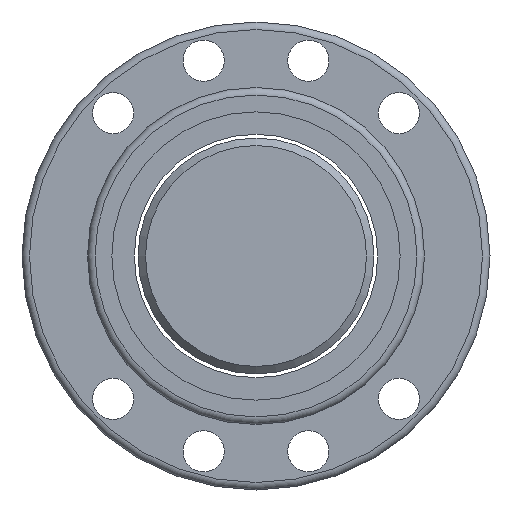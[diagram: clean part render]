
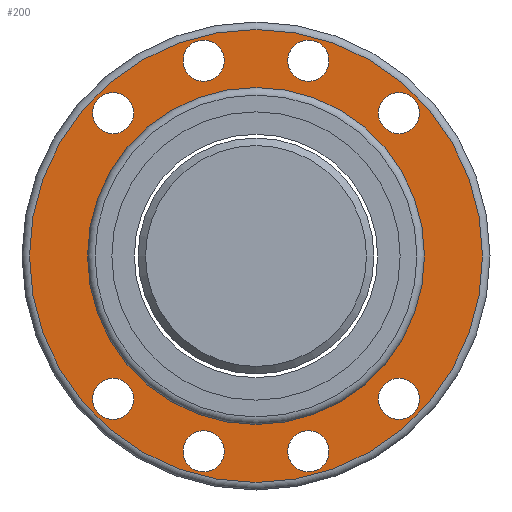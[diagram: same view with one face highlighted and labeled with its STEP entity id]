
A CAD part, left-side view. The second image highlights one B-rep face of the part: STEP entity #200.
In plain terms, the highlighted planar face has unit normal (-1, 0, 0).
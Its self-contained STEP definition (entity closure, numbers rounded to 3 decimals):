
#130=FACE_BOUND('',#261,.T.);
#131=FACE_BOUND('',#262,.T.);
#132=FACE_BOUND('',#263,.T.);
#133=FACE_BOUND('',#264,.T.);
#134=FACE_BOUND('',#265,.T.);
#135=FACE_BOUND('',#266,.T.);
#136=FACE_BOUND('',#267,.T.);
#137=FACE_BOUND('',#268,.T.);
#138=FACE_BOUND('',#270,.T.);
#200=ADVANCED_FACE('',(#130,#131,#132,#133,#134,#135,#136,#137,#244,#138),
#231,.F.);
#231=PLANE('',#560);
#244=FACE_OUTER_BOUND('',#269,.T.);
#261=EDGE_LOOP('',(#343));
#262=EDGE_LOOP('',(#344));
#263=EDGE_LOOP('',(#345));
#264=EDGE_LOOP('',(#346));
#265=EDGE_LOOP('',(#347));
#266=EDGE_LOOP('',(#348));
#267=EDGE_LOOP('',(#349));
#268=EDGE_LOOP('',(#350));
#269=EDGE_LOOP('',(#351));
#270=EDGE_LOOP('',(#352));
#343=ORIENTED_EDGE('',*,*,#462,.T.);
#344=ORIENTED_EDGE('',*,*,#463,.T.);
#345=ORIENTED_EDGE('',*,*,#464,.T.);
#346=ORIENTED_EDGE('',*,*,#465,.T.);
#347=ORIENTED_EDGE('',*,*,#466,.T.);
#348=ORIENTED_EDGE('',*,*,#467,.T.);
#349=ORIENTED_EDGE('',*,*,#468,.T.);
#350=ORIENTED_EDGE('',*,*,#469,.T.);
#351=ORIENTED_EDGE('',*,*,#470,.F.);
#352=ORIENTED_EDGE('',*,*,#471,.T.);
#421=VERTEX_POINT('',#783);
#422=VERTEX_POINT('',#785);
#423=VERTEX_POINT('',#787);
#424=VERTEX_POINT('',#789);
#425=VERTEX_POINT('',#791);
#426=VERTEX_POINT('',#793);
#427=VERTEX_POINT('',#795);
#428=VERTEX_POINT('',#797);
#429=VERTEX_POINT('',#799);
#430=VERTEX_POINT('',#801);
#462=EDGE_CURVE('',#421,#421,#503,.T.);
#463=EDGE_CURVE('',#422,#422,#504,.T.);
#464=EDGE_CURVE('',#423,#423,#505,.T.);
#465=EDGE_CURVE('',#424,#424,#506,.T.);
#466=EDGE_CURVE('',#425,#425,#507,.T.);
#467=EDGE_CURVE('',#426,#426,#508,.T.);
#468=EDGE_CURVE('',#427,#427,#509,.T.);
#469=EDGE_CURVE('',#428,#428,#510,.T.);
#470=EDGE_CURVE('',#429,#429,#511,.T.);
#471=EDGE_CURVE('',#430,#430,#512,.T.);
#503=CIRCLE('',#550,5.5);
#504=CIRCLE('',#551,5.5);
#505=CIRCLE('',#552,5.5);
#506=CIRCLE('',#553,5.5);
#507=CIRCLE('',#554,5.5);
#508=CIRCLE('',#555,5.5);
#509=CIRCLE('',#556,5.5);
#510=CIRCLE('',#557,5.5);
#511=CIRCLE('',#558,60.5);
#512=CIRCLE('',#559,45.);
#550=AXIS2_PLACEMENT_3D('',#782,#636,#637);
#551=AXIS2_PLACEMENT_3D('',#784,#638,#639);
#552=AXIS2_PLACEMENT_3D('',#786,#640,#641);
#553=AXIS2_PLACEMENT_3D('',#788,#642,#643);
#554=AXIS2_PLACEMENT_3D('',#790,#644,#645);
#555=AXIS2_PLACEMENT_3D('',#792,#646,#647);
#556=AXIS2_PLACEMENT_3D('',#794,#648,#649);
#557=AXIS2_PLACEMENT_3D('',#796,#650,#651);
#558=AXIS2_PLACEMENT_3D('',#798,#652,#653);
#559=AXIS2_PLACEMENT_3D('',#800,#654,#655);
#560=AXIS2_PLACEMENT_3D('',#802,#656,#657);
#636=DIRECTION('',(1.,0.,0.));
#637=DIRECTION('',(0.,0.,-1.));
#638=DIRECTION('',(1.,0.,0.));
#639=DIRECTION('',(0.,0.,-1.));
#640=DIRECTION('',(1.,0.,0.));
#641=DIRECTION('',(0.,0.,-1.));
#642=DIRECTION('',(1.,0.,0.));
#643=DIRECTION('',(0.,0.,-1.));
#644=DIRECTION('',(1.,0.,0.));
#645=DIRECTION('',(0.,0.,-1.));
#646=DIRECTION('',(1.,0.,0.));
#647=DIRECTION('',(0.,0.,-1.));
#648=DIRECTION('',(1.,0.,0.));
#649=DIRECTION('',(0.,0.,-1.));
#650=DIRECTION('',(1.,0.,0.));
#651=DIRECTION('',(0.,0.,-1.));
#652=DIRECTION('',(1.,0.,0.));
#653=DIRECTION('',(0.,0.,-1.));
#654=DIRECTION('',(1.,0.,0.));
#655=DIRECTION('',(0.,0.,-1.));
#656=DIRECTION('',(1.,0.,0.));
#657=DIRECTION('',(0.,0.,-1.));
#782=CARTESIAN_POINT('',(-68.213,38.18,-38.18));
#783=CARTESIAN_POINT('',(-68.213,38.18,-43.68));
#784=CARTESIAN_POINT('',(-68.213,38.18,38.18));
#785=CARTESIAN_POINT('',(-68.213,38.18,32.68));
#786=CARTESIAN_POINT('',(-68.213,-38.18,38.18));
#787=CARTESIAN_POINT('',(-68.213,-38.18,32.68));
#788=CARTESIAN_POINT('',(-68.213,-38.18,-38.18));
#789=CARTESIAN_POINT('',(-68.213,-38.18,-43.68));
#790=CARTESIAN_POINT('',(-68.213,13.98,-52.16));
#791=CARTESIAN_POINT('',(-68.213,13.98,-57.66));
#792=CARTESIAN_POINT('',(-68.213,-13.98,-52.16));
#793=CARTESIAN_POINT('',(-68.213,-13.98,-57.66));
#794=CARTESIAN_POINT('',(-68.213,-13.98,52.16));
#795=CARTESIAN_POINT('',(-68.213,-13.98,46.66));
#796=CARTESIAN_POINT('',(-68.213,13.98,52.16));
#797=CARTESIAN_POINT('',(-68.213,13.98,46.66));
#798=CARTESIAN_POINT('',(-68.213,0.,0.));
#799=CARTESIAN_POINT('',(-68.213,0.,-60.5));
#800=CARTESIAN_POINT('',(-68.213,0.,0.));
#801=CARTESIAN_POINT('',(-68.213,0.,-45.));
#802=CARTESIAN_POINT('',(-68.213,52.75,0.));
